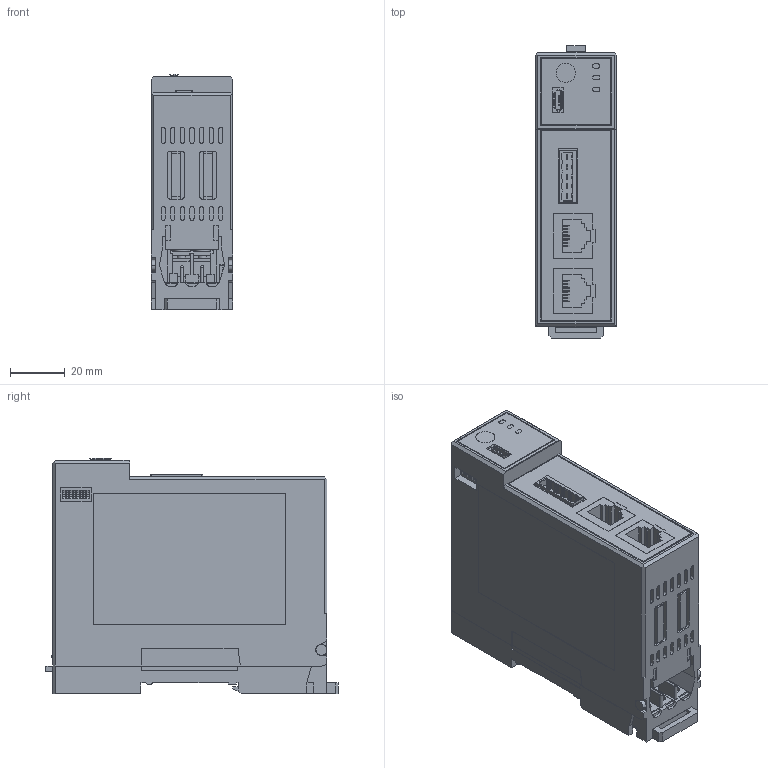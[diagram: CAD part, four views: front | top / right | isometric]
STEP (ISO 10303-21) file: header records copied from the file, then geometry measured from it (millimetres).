
FILE_DESCRIPTION (( 'STEP AP203' ), '1' );
FILE_NAME ('QMC1_210909.STEP', '2023-05-12T05:35:11', ( '' ), ( '' ), 'SwSTEP 2.0', 'SolidWorks 2022', '' );
FILE_SCHEMA (( 'CONFIG_CONTROL_DESIGN' ));
Length unit declared in the file: millimetre
Products named in the file (1): QMC1_210909
Bounding box: 29.8 x 106.6 x 85.82 mm (x, y, z)
Volume: 219920.5 mm3; surface area: 38659.4 mm2
Topology: 1 solids, 1 shells, 1298 faces, 3466 edges, 2270 vertices
Faces by surface type: plane 1060, cylinder 234, torus 4
Entity records: 39955 total; most frequent: CARTESIAN_POINT 7137, ORIENTED_EDGE 6932, DIRECTION 6442, EDGE_CURVE 3466, LINE 3020, VECTOR 3020, VERTEX_POINT 2270, AXIS2_PLACEMENT_3D 1711
